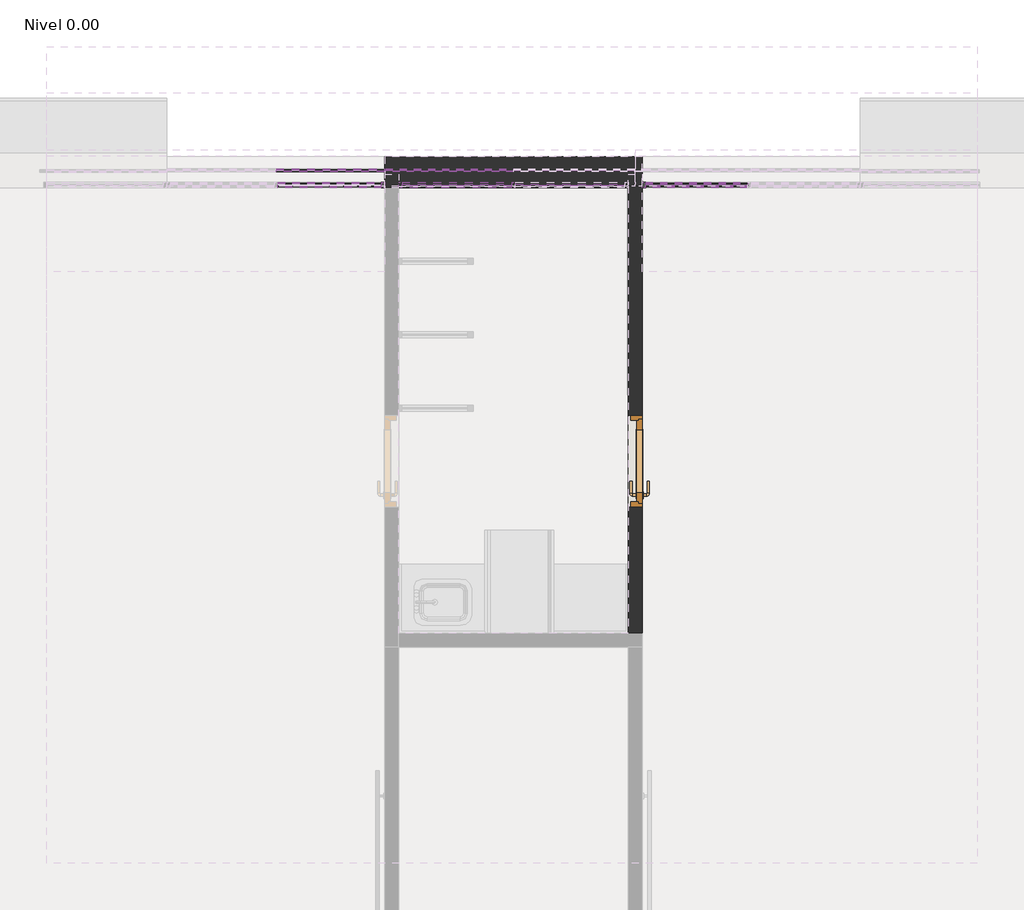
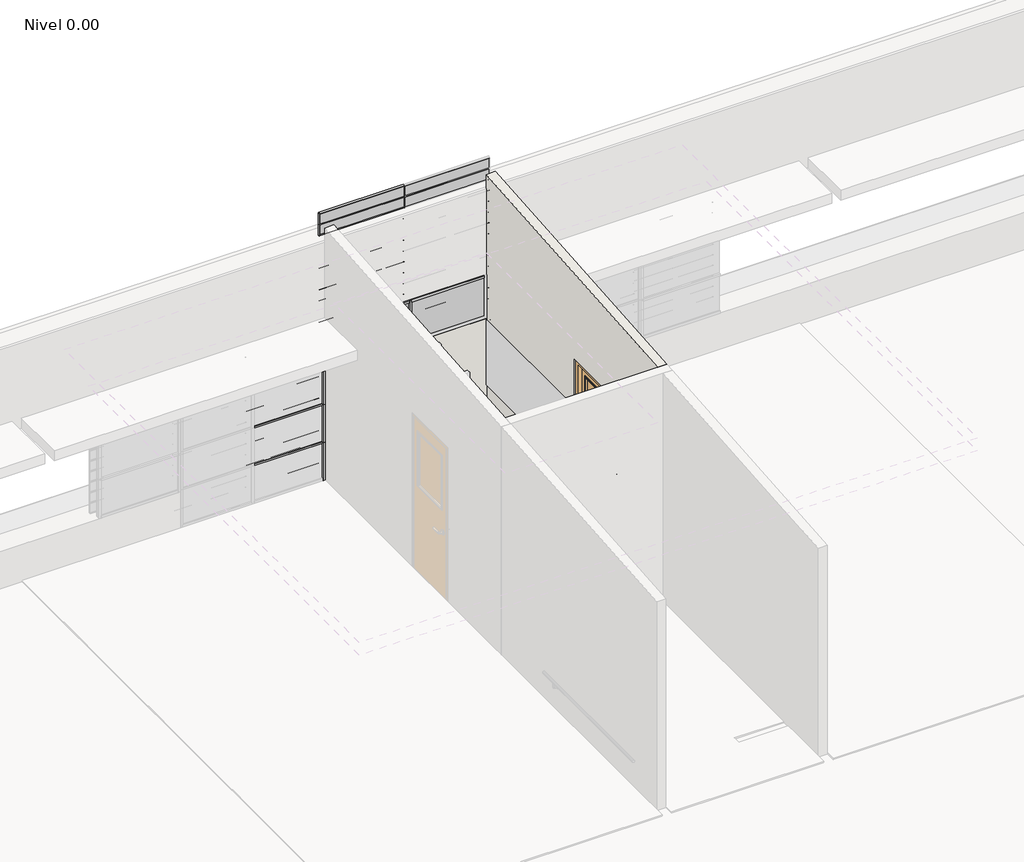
# One storey, part 20 of 27: 93 members, 34 plates, 2 walls, 1 door.
"""IFC4 building model written with IfcOpenShell, lengths in millimetres."""

from ifc_helpers import new_model, si_unit, origin, place, context, project, spatial, faceted_brep, transform, mapped, element, save
from components import puerta_c_01_c01_800x2100mm_3cbcec37, circular_mullion_1dead5a5, circular_mullion_e1cfff8a, l_corner_mullion_bdbcb013, l_corner_mullion_de296168, rectangular_mullion_4771c1cd, rectangular_mullion_435ed243, rectangular_mullion_62a8ddbd, rectangular_mullion_2cbd8fee, rectangular_mullion_4ef2b083, rectangular_mullion_b27f267a, rectangular_mullion_f4ea7fa0, rectangular_mullion_b22e6fb3, rectangular_mullion_4732226b, rectangular_mullion_bccfeea3, system_panel_c2da90dd, system_panel_3115ee70, system_panel_glazed_1415b8e8, system_panel_glazed_e2e8d64f, system_panel_glazed_11453ee4

model = new_model("IFC4")

# Units and contexts
model_context = context("Model", 3, world=origin())
ifc_project = project(units=[si_unit("LENGTHUNIT", "METRE", prefix="MILLI")], contexts=[model_context])

# Site, building, storey
site = spatial("IfcSite", under=ifc_project)
building = spatial("IfcBuilding", under=site)
storey = spatial("IfcBuildingStorey", under=building, Name="Nivel 0.00", Elevation=0.0)

# Door
placement = place(None, origin())
puerta_c_01_c01_800x2100mm_shape = puerta_c_01_c01_800x2100mm_3cbcec37(model_context)
element("IfcDoor", 1, ObjectType="PUERTA_C-01 : C01_800X2100mm", at=placement, inside=storey, context=model_context, shape_type="MappedRepresentation", body=[
    mapped(puerta_c_01_c01_800x2100mm_shape, transform((5408.1435187, 4429.3952347, 0.0), x_axis=(0.0, 1.0, 0.0), y_axis=(-1.0, 0.0, 0.0), z_axis=(0.0, 0.0, 1.0))),
])

# Members
circular_mullion_shape = circular_mullion_1dead5a5(model_context)
element("IfcMember", 2, ObjectType="Circular Mullion : ARQ_HERR_16mm", at=placement, inside=storey, context=model_context, shape_type="MappedRepresentation", body=[
    mapped(circular_mullion_shape, transform((4351.5775043, 6959.43912, 1650.0), x_axis=(0.0, 0.0, 1.0), y_axis=(0.0, -1.0, 0.0), z_axis=(1.0, 0.0, 0.0))),
])
element("IfcMember", 3, ObjectType="Circular Mullion : ARQ_HERR_16mm", at=placement, inside=storey, context=model_context, shape_type="MappedRepresentation", body=[
    mapped(circular_mullion_shape, transform((4351.5775043, 6959.43912, 1800.0), x_axis=(0.0, 0.0, 1.0), y_axis=(0.0, -1.0, 0.0), z_axis=(1.0, 0.0, 0.0))),
])
element("IfcMember", 4, ObjectType="Circular Mullion : ARQ_HERR_16mm", at=placement, inside=storey, context=model_context, shape_type="MappedRepresentation", body=[
    mapped(circular_mullion_shape, transform((4351.5775043, 6959.43912, 1950.0), x_axis=(0.0, 0.0, 1.0), y_axis=(0.0, -1.0, 0.0), z_axis=(1.0, 0.0, 0.0))),
])
element("IfcMember", 5, ObjectType="Circular Mullion : ARQ_HERR_16mm", at=placement, inside=storey, context=model_context, shape_type="MappedRepresentation", body=[
    mapped(circular_mullion_shape, transform((4351.5775043, 6959.43912, 2100.0), x_axis=(0.0, 0.0, 1.0), y_axis=(0.0, -1.0, 0.0), z_axis=(1.0, 0.0, 0.0))),
])
element("IfcMember", 6, ObjectType="Circular Mullion : ARQ_HERR_16mm", at=placement, inside=storey, context=model_context, shape_type="MappedRepresentation", body=[
    mapped(circular_mullion_shape, transform((4351.5775043, 6959.43912, 2250.0), x_axis=(0.0, 0.0, 1.0), y_axis=(0.0, -1.0, 0.0), z_axis=(1.0, 0.0, 0.0))),
])
element("IfcMember", 7, ObjectType="Circular Mullion : ARQ_HERR_16mm", at=placement, inside=storey, context=model_context, shape_type="MappedRepresentation", body=[
    mapped(circular_mullion_shape, transform((4351.5775043, 6959.43912, 2400.0), x_axis=(0.0, 0.0, 1.0), y_axis=(0.0, -1.0, 0.0), z_axis=(1.0, 0.0, 0.0))),
])
element("IfcMember", 8, ObjectType="Circular Mullion : ARQ_HERR_16mm", at=placement, inside=storey, context=model_context, shape_type="MappedRepresentation", body=[
    mapped(circular_mullion_shape, transform((4351.5775043, 6959.43912, 2550.0), x_axis=(0.0, 0.0, 1.0), y_axis=(0.0, -1.0, 0.0), z_axis=(1.0, 0.0, 0.0))),
])
element("IfcMember", 9, ObjectType="Circular Mullion : ARQ_HERR_16mm", at=placement, inside=storey, context=model_context, shape_type="MappedRepresentation", body=[
    mapped(circular_mullion_shape, transform((4351.5775043, 6959.43912, 2700.0), x_axis=(0.0, 0.0, 1.0), y_axis=(0.0, -1.0, 0.0), z_axis=(1.0, 0.0, 0.0))),
])
element("IfcMember", 10, ObjectType="Circular Mullion : ARQ_HERR_16mm", at=placement, inside=storey, context=model_context, shape_type="MappedRepresentation", body=[
    mapped(circular_mullion_shape, transform((4351.5775043, 6959.43912, 2850.0), x_axis=(0.0, 0.0, 1.0), y_axis=(0.0, -1.0, 0.0), z_axis=(1.0, 0.0, 0.0))),
])
element("IfcMember", 11, ObjectType="Circular Mullion : ARQ_HERR_16mm", at=placement, inside=storey, context=model_context, shape_type="MappedRepresentation", body=[
    mapped(circular_mullion_shape, transform((4351.5775043, 6959.43912, 3000.0), x_axis=(0.0, 0.0, 1.0), y_axis=(0.0, -1.0, 0.0), z_axis=(1.0, 0.0, 0.0))),
])
element("IfcMember", 12, ObjectType="Circular Mullion : ARQ_HERR_16mm", at=placement, inside=storey, context=model_context, shape_type="MappedRepresentation", body=[
    mapped(circular_mullion_shape, transform((4351.5775043, 6959.43912, 3150.0), x_axis=(0.0, 0.0, 1.0), y_axis=(0.0, -1.0, 0.0), z_axis=(1.0, 0.0, 0.0))),
])
element("IfcMember", 13, ObjectType="Circular Mullion : ARQ_HERR_16mm", at=placement, inside=storey, context=model_context, shape_type="MappedRepresentation", body=[
    mapped(circular_mullion_shape, transform((4351.5775043, 6959.43912, 3300.0), x_axis=(0.0, 0.0, 1.0), y_axis=(0.0, -1.0, 0.0), z_axis=(1.0, 0.0, 0.0))),
])
element("IfcMember", 14, ObjectType="Circular Mullion : ARQ_HERR_16mm", at=placement, inside=storey, context=model_context, shape_type="MappedRepresentation", body=[
    mapped(circular_mullion_shape, transform((4351.5775043, 6959.43912, 3450.0), x_axis=(0.0, 0.0, 1.0), y_axis=(0.0, -1.0, 0.0), z_axis=(1.0, 0.0, 0.0))),
])
circular_mullion_2_shape = circular_mullion_e1cfff8a(model_context)
element("IfcMember", 15, ObjectType="Circular Mullion : ARQ_HERR_16mm", at=placement, inside=storey, context=model_context, shape_type="MappedRepresentation", body=[
    mapped(circular_mullion_2_shape, transform((3228.6614898, 6959.43912, 150.0), x_axis=(0.0, 0.0, 1.0), y_axis=(0.0, -1.0, 0.0), z_axis=(1.0, 0.0, 0.0))),
])
element("IfcMember", 16, ObjectType="Circular Mullion : ARQ_HERR_16mm", at=placement, inside=storey, context=model_context, shape_type="MappedRepresentation", body=[
    mapped(circular_mullion_2_shape, transform((3228.6614898, 6959.43912, 300.0), x_axis=(0.0, 0.0, 1.0), y_axis=(0.0, -1.0, 0.0), z_axis=(1.0, 0.0, 0.0))),
])
element("IfcMember", 17, ObjectType="Circular Mullion : ARQ_HERR_16mm", at=placement, inside=storey, context=model_context, shape_type="MappedRepresentation", body=[
    mapped(circular_mullion_2_shape, transform((3228.6614898, 6959.43912, 450.0), x_axis=(0.0, 0.0, 1.0), y_axis=(0.0, -1.0, 0.0), z_axis=(1.0, 0.0, 0.0))),
])
element("IfcMember", 18, ObjectType="Circular Mullion : ARQ_HERR_16mm", at=placement, inside=storey, context=model_context, shape_type="MappedRepresentation", body=[
    mapped(circular_mullion_2_shape, transform((3228.6614898, 6959.43912, 600.0), x_axis=(0.0, 0.0, 1.0), y_axis=(0.0, -1.0, 0.0), z_axis=(1.0, 0.0, 0.0))),
])
element("IfcMember", 19, ObjectType="Circular Mullion : ARQ_HERR_16mm", at=placement, inside=storey, context=model_context, shape_type="MappedRepresentation", body=[
    mapped(circular_mullion_2_shape, transform((3228.6614898, 6959.43912, 750.0), x_axis=(0.0, 0.0, 1.0), y_axis=(0.0, -1.0, 0.0), z_axis=(1.0, 0.0, 0.0))),
])
element("IfcMember", 20, ObjectType="Circular Mullion : ARQ_HERR_16mm", at=placement, inside=storey, context=model_context, shape_type="MappedRepresentation", body=[
    mapped(circular_mullion_2_shape, transform((3228.6614898, 6959.43912, 900.0), x_axis=(0.0, 0.0, 1.0), y_axis=(0.0, -1.0, 0.0), z_axis=(1.0, 0.0, 0.0))),
])
element("IfcMember", 21, ObjectType="Circular Mullion : ARQ_HERR_16mm", at=placement, inside=storey, context=model_context, shape_type="MappedRepresentation", body=[
    mapped(circular_mullion_2_shape, transform((3228.6614898, 6959.43912, 1050.0), x_axis=(0.0, 0.0, 1.0), y_axis=(0.0, -1.0, 0.0), z_axis=(1.0, 0.0, 0.0))),
])
element("IfcMember", 22, ObjectType="Circular Mullion : ARQ_HERR_16mm", at=placement, inside=storey, context=model_context, shape_type="MappedRepresentation", body=[
    mapped(circular_mullion_2_shape, transform((3228.6614898, 6959.43912, 1200.0), x_axis=(0.0, 0.0, 1.0), y_axis=(0.0, -1.0, 0.0), z_axis=(1.0, 0.0, 0.0))),
])
element("IfcMember", 23, ObjectType="Circular Mullion : ARQ_HERR_16mm", at=placement, inside=storey, context=model_context, shape_type="MappedRepresentation", body=[
    mapped(circular_mullion_2_shape, transform((3228.6614898, 6959.43912, 1350.0), x_axis=(0.0, 0.0, 1.0), y_axis=(0.0, -1.0, 0.0), z_axis=(1.0, 0.0, 0.0))),
])
element("IfcMember", 24, ObjectType="Circular Mullion : ARQ_HERR_16mm", at=placement, inside=storey, context=model_context, shape_type="MappedRepresentation", body=[
    mapped(circular_mullion_2_shape, transform((3228.6614898, 6959.43912, 1500.0), x_axis=(0.0, 0.0, 1.0), y_axis=(0.0, -1.0, 0.0), z_axis=(1.0, 0.0, 0.0))),
])
element("IfcMember", 25, ObjectType="Circular Mullion : ARQ_HERR_16mm", at=placement, inside=storey, context=model_context, shape_type="MappedRepresentation", body=[
    mapped(circular_mullion_2_shape, transform((3228.6614898, 6959.43912, 1650.0), x_axis=(0.0, 0.0, 1.0), y_axis=(0.0, -1.0, 0.0), z_axis=(1.0, 0.0, 0.0))),
])
element("IfcMember", 26, ObjectType="Circular Mullion : ARQ_HERR_16mm", at=placement, inside=storey, context=model_context, shape_type="MappedRepresentation", body=[
    mapped(circular_mullion_2_shape, transform((3228.6614898, 6959.43912, 1800.0), x_axis=(0.0, 0.0, 1.0), y_axis=(0.0, -1.0, 0.0), z_axis=(1.0, 0.0, 0.0))),
])
element("IfcMember", 27, ObjectType="Circular Mullion : ARQ_HERR_16mm", at=placement, inside=storey, context=model_context, shape_type="MappedRepresentation", body=[
    mapped(circular_mullion_2_shape, transform((3228.6614898, 6959.43912, 1950.0), x_axis=(0.0, 0.0, 1.0), y_axis=(0.0, -1.0, 0.0), z_axis=(1.0, 0.0, 0.0))),
])
l_corner_mullion_shape = l_corner_mullion_bdbcb013(model_context)
element("IfcMember", 28, ObjectType="L Corner Mullion : ARQ_HERR_15X6mm", at=placement, inside=storey, context=model_context, shape_type="MappedRepresentation", body=[
    mapped(l_corner_mullion_shape, transform((4351.5775043, 6959.43912, 3600.0), x_axis=(0.0, 0.0, 1.0), y_axis=(0.0, -1.0, 0.0), z_axis=(1.0, 0.0, 0.0))),
])
element("IfcMember", 29, ObjectType="L Corner Mullion : ARQ_HERR_15X6mm", at=placement, inside=storey, context=model_context, shape_type="MappedRepresentation", body=[
    mapped(l_corner_mullion_shape, transform((3240.6614898, 6959.43912, 1500.0), x_axis=(0.0, 0.0, -1.0), y_axis=(0.0, -1.0, 0.0), z_axis=(-1.0, 0.0, 0.0))),
])
element("IfcMember", 30, ObjectType="L Corner Mullion : ARQ_HERR_15X6mm", at=placement, inside=storey, context=model_context, shape_type="MappedRepresentation", body=[
    mapped(l_corner_mullion_shape, transform((4357.5775043, 6959.43912, 1500.0), x_axis=(0.0, 0.0, -1.0), y_axis=(0.0, -1.0, 0.0), z_axis=(-1.0, 0.0, 0.0))),
])
l_corner_mullion_2_shape = l_corner_mullion_de296168(model_context)
element("IfcMember", 31, ObjectType="L Corner Mullion : ARQ_HERR_15X6mm", at=placement, inside=storey, context=model_context, shape_type="MappedRepresentation", body=[
    mapped(l_corner_mullion_2_shape, transform((3228.6614898, 6959.43912, 2100.0), x_axis=(0.0, 0.0, 1.0), y_axis=(0.0, -1.0, 0.0), z_axis=(1.0, 0.0, 0.0))),
])
rectangular_mullion_shape = rectangular_mullion_4771c1cd(model_context)
element("IfcMember", 32, ObjectType="Rectangular Mullion : ARQ_TV_MULL_50x30mm", at=placement, inside=storey, context=model_context, shape_type="MappedRepresentation", body=[
    mapped(rectangular_mullion_shape, transform((5504.4935187, 6834.4460983, 2100.0), x_axis=(0.0, 0.0, 1.0), y_axis=(0.0, 1.0, 0.0), z_axis=(-1.0, 0.0, 0.0))),
])
rectangular_mullion_2_shape = rectangular_mullion_435ed243(model_context)
element("IfcMember", 33, ObjectType="Rectangular Mullion : ARQ_TV_MULL_30x20mm", at=placement, inside=storey, context=model_context, shape_type="MappedRepresentation", body=[
    mapped(rectangular_mullion_2_shape, transform((5504.4935187, 6834.4460983, 525.0), x_axis=(0.0, 0.0, 1.0), y_axis=(0.0, 1.0, 0.0), z_axis=(-1.0, 0.0, 0.0))),
])
element("IfcMember", 34, ObjectType="Rectangular Mullion : ARQ_TV_MULL_30x20mm", at=placement, inside=storey, context=model_context, shape_type="MappedRepresentation", body=[
    mapped(rectangular_mullion_2_shape, transform((5504.4935187, 6834.4460983, 1050.0), x_axis=(0.0, 0.0, 1.0), y_axis=(0.0, 1.0, 0.0), z_axis=(-1.0, 0.0, 0.0))),
])
element("IfcMember", 35, ObjectType="Rectangular Mullion : ARQ_TV_MULL_30x20mm", at=placement, inside=storey, context=model_context, shape_type="MappedRepresentation", body=[
    mapped(rectangular_mullion_2_shape, transform((5504.4935187, 6834.4460983, 1575.0), x_axis=(0.0, 0.0, 1.0), y_axis=(0.0, 1.0, 0.0), z_axis=(-1.0, 0.0, 0.0))),
])
rectangular_mullion_3_shape = rectangular_mullion_62a8ddbd(model_context)
element("IfcMember", 36, ObjectType="Rectangular Mullion : ARQ_TV_MULL_50x30mm", at=placement, inside=storey, context=model_context, shape_type="MappedRepresentation", body=[
    mapped(rectangular_mullion_3_shape, transform((5474.4935187, 6834.4460983, 0.0), x_axis=(-1.0, 0.0, 0.0), y_axis=(0.0, 1.0, 0.0), z_axis=(0.0, 0.0, -1.0))),
])
element("IfcMember", 37, ObjectType="Rectangular Mullion : ARQ_TV_MULL_50x30mm", at=placement, inside=storey, context=model_context, shape_type="MappedRepresentation", body=[
    mapped(rectangular_mullion_3_shape, transform((3234.6614898, 6834.4460974, 0.0), x_axis=(1.0, 0.0, 0.0), y_axis=(0.0, -1.0, 0.0), z_axis=(0.0, 0.0, -1.0))),
])
element("IfcMember", 38, ObjectType="Rectangular Mullion : ARQ_TV_MULL_50x30mm", at=placement, inside=storey, context=model_context, shape_type="MappedRepresentation", body=[
    mapped(rectangular_mullion_3_shape, transform((5474.4935187, 6834.4460983, 525.0), x_axis=(-1.0, 0.0, 0.0), y_axis=(0.0, 1.0, 0.0), z_axis=(0.0, 0.0, -1.0))),
])
element("IfcMember", 39, ObjectType="Rectangular Mullion : ARQ_TV_MULL_50x30mm", at=placement, inside=storey, context=model_context, shape_type="MappedRepresentation", body=[
    mapped(rectangular_mullion_3_shape, transform((5474.4935187, 6834.4460983, 1050.0), x_axis=(-1.0, 0.0, 0.0), y_axis=(0.0, 1.0, 0.0), z_axis=(0.0, 0.0, -1.0))),
])
element("IfcMember", 40, ObjectType="Rectangular Mullion : ARQ_TV_MULL_50x30mm", at=placement, inside=storey, context=model_context, shape_type="MappedRepresentation", body=[
    mapped(rectangular_mullion_3_shape, transform((3234.6614898, 6834.4460974, 525.0), x_axis=(1.0, 0.0, 0.0), y_axis=(0.0, -1.0, 0.0), z_axis=(0.0, 0.0, -1.0))),
])
element("IfcMember", 41, ObjectType="Rectangular Mullion : ARQ_TV_MULL_50x30mm", at=placement, inside=storey, context=model_context, shape_type="MappedRepresentation", body=[
    mapped(rectangular_mullion_3_shape, transform((3234.6614898, 6834.4460974, 1050.0), x_axis=(1.0, 0.0, 0.0), y_axis=(0.0, -1.0, 0.0), z_axis=(0.0, 0.0, -1.0))),
])
element("IfcMember", 42, ObjectType="Rectangular Mullion : ARQ_TV_MULL_50x30mm", at=placement, inside=storey, context=model_context, shape_type="MappedRepresentation", body=[
    mapped(rectangular_mullion_3_shape, transform((5474.4935187, 6834.4460983, 1575.0), x_axis=(-1.0, 0.0, 0.0), y_axis=(0.0, 1.0, 0.0), z_axis=(0.0, 0.0, -1.0))),
])
element("IfcMember", 43, ObjectType="Rectangular Mullion : ARQ_TV_MULL_50x30mm", at=placement, inside=storey, context=model_context, shape_type="MappedRepresentation", body=[
    mapped(rectangular_mullion_3_shape, transform((3234.6614898, 6834.4460974, 1575.0), x_axis=(1.0, 0.0, 0.0), y_axis=(0.0, -1.0, 0.0), z_axis=(0.0, 0.0, -1.0))),
])
rectangular_mullion_4_shape = rectangular_mullion_2cbd8fee(model_context)
element("IfcMember", 44, ObjectType="Rectangular Mullion : ARQ_TV_MULL_50x30mm", at=placement, inside=storey, context=model_context, shape_type="MappedRepresentation", body=[
    mapped(rectangular_mullion_4_shape, transform((3204.6614898, 6834.4460974, 2100.0), x_axis=(0.0, 0.0, 1.0), y_axis=(0.0, -1.0, 0.0), z_axis=(1.0, 0.0, 0.0))),
])
rectangular_mullion_5_shape = rectangular_mullion_4ef2b083(model_context)
element("IfcMember", 45, ObjectType="Rectangular Mullion : ARQ_TV_MULL_30x20mm", at=placement, inside=storey, context=model_context, shape_type="MappedRepresentation", body=[
    mapped(rectangular_mullion_5_shape, transform((3204.6614898, 6834.4460974, 525.0), x_axis=(0.0, 0.0, 1.0), y_axis=(0.0, -1.0, 0.0), z_axis=(1.0, 0.0, 0.0))),
])
element("IfcMember", 46, ObjectType="Rectangular Mullion : ARQ_TV_MULL_30x20mm", at=placement, inside=storey, context=model_context, shape_type="MappedRepresentation", body=[
    mapped(rectangular_mullion_5_shape, transform((3204.6614898, 6834.4460974, 1050.0), x_axis=(0.0, 0.0, 1.0), y_axis=(0.0, -1.0, 0.0), z_axis=(1.0, 0.0, 0.0))),
])
element("IfcMember", 47, ObjectType="Rectangular Mullion : ARQ_TV_MULL_30x20mm", at=placement, inside=storey, context=model_context, shape_type="MappedRepresentation", body=[
    mapped(rectangular_mullion_5_shape, transform((3204.6614898, 6834.4460974, 1575.0), x_axis=(0.0, 0.0, 1.0), y_axis=(0.0, -1.0, 0.0), z_axis=(1.0, 0.0, 0.0))),
])
rectangular_mullion_6_shape = rectangular_mullion_b27f267a(model_context)
element("IfcMember", 48, ObjectType="Rectangular Mullion : ARQ_TV_MULL_50x30mm", at=placement, inside=storey, context=model_context, shape_type="MappedRepresentation", body=[
    mapped(rectangular_mullion_6_shape, transform((4354.4372964, 6834.4460983, 1500.0), x_axis=(-1.0, 0.0, 0.0), y_axis=(0.0, 1.0, 0.0), z_axis=(0.0, 0.0, -1.0))),
])
rectangular_mullion_7_shape = rectangular_mullion_f4ea7fa0(model_context)
element("IfcMember", 49, ObjectType="Rectangular Mullion : ARQ_TV_MULL_50x30mm", at=placement, inside=storey, context=model_context, shape_type="MappedRepresentation", body=[
    mapped(rectangular_mullion_7_shape, transform((3354.3810741, 6834.4460983, 1500.0), x_axis=(-1.0, 0.0, 0.0), y_axis=(0.0, 1.0, 0.0), z_axis=(0.0, 0.0, -1.0))),
])
rectangular_mullion_8_shape = rectangular_mullion_b22e6fb3(model_context)
element("IfcMember", 50, ObjectType="Rectangular Mullion : ARQ_TV_MULL_50x30mm", at=placement, inside=storey, context=model_context, shape_type="MappedRepresentation", body=[
    mapped(rectangular_mullion_8_shape, transform((3384.3810741, 6834.4460983, 2100.0), x_axis=(0.0, 0.0, 1.0), y_axis=(0.0, 1.0, 0.0), z_axis=(-1.0, 0.0, 0.0))),
])
element("IfcMember", 51, ObjectType="Rectangular Mullion : ARQ_TV_MULL_50x30mm", at=placement, inside=storey, context=model_context, shape_type="MappedRepresentation", body=[
    mapped(rectangular_mullion_8_shape, transform((4369.4372964, 6834.4460983, 2100.0), x_axis=(0.0, 0.0, 1.0), y_axis=(0.0, 1.0, 0.0), z_axis=(-1.0, 0.0, 0.0))),
])
element("IfcMember", 52, ObjectType="Rectangular Mullion : ARQ_TV_MULL_50x30mm", at=placement, inside=storey, context=model_context, shape_type="MappedRepresentation", body=[
    mapped(rectangular_mullion_8_shape, transform((4339.4372964, 6834.4460983, 1500.0), x_axis=(0.0, 0.0, -1.0), y_axis=(0.0, 1.0, 0.0), z_axis=(1.0, 0.0, 0.0))),
])
rectangular_mullion_9_shape = rectangular_mullion_4732226b(model_context)
element("IfcMember", 53, ObjectType="Rectangular Mullion : ARQ_HERR_15X6mm", at=placement, inside=storey, context=model_context, shape_type="MappedRepresentation", body=[
    mapped(rectangular_mullion_9_shape, transform((4354.5775043, 6959.43912, 1500.0), x_axis=(1.0, 0.0, 0.0), y_axis=(0.0, -1.0, 0.0), z_axis=(0.0, 0.0, -1.0))),
])
element("IfcMember", 54, ObjectType="Rectangular Mullion : ARQ_HERR_15X6mm", at=placement, inside=storey, context=model_context, shape_type="MappedRepresentation", body=[
    mapped(rectangular_mullion_9_shape, transform((4354.5775043, 6959.43912, 1650.0), x_axis=(1.0, 0.0, 0.0), y_axis=(0.0, -1.0, 0.0), z_axis=(0.0, 0.0, -1.0))),
])
element("IfcMember", 55, ObjectType="Rectangular Mullion : ARQ_HERR_15X6mm", at=placement, inside=storey, context=model_context, shape_type="MappedRepresentation", body=[
    mapped(rectangular_mullion_9_shape, transform((4354.5775043, 6959.43912, 1800.0), x_axis=(1.0, 0.0, 0.0), y_axis=(0.0, -1.0, 0.0), z_axis=(0.0, 0.0, -1.0))),
])
element("IfcMember", 56, ObjectType="Rectangular Mullion : ARQ_HERR_15X6mm", at=placement, inside=storey, context=model_context, shape_type="MappedRepresentation", body=[
    mapped(rectangular_mullion_9_shape, transform((4354.5775043, 6959.43912, 1950.0), x_axis=(1.0, 0.0, 0.0), y_axis=(0.0, -1.0, 0.0), z_axis=(0.0, 0.0, -1.0))),
])
element("IfcMember", 57, ObjectType="Rectangular Mullion : ARQ_HERR_15X6mm", at=placement, inside=storey, context=model_context, shape_type="MappedRepresentation", body=[
    mapped(rectangular_mullion_9_shape, transform((4354.5775043, 6959.43912, 2100.0), x_axis=(1.0, 0.0, 0.0), y_axis=(0.0, -1.0, 0.0), z_axis=(0.0, 0.0, -1.0))),
])
element("IfcMember", 58, ObjectType="Rectangular Mullion : ARQ_HERR_15X6mm", at=placement, inside=storey, context=model_context, shape_type="MappedRepresentation", body=[
    mapped(rectangular_mullion_9_shape, transform((4354.5775043, 6959.43912, 2250.0), x_axis=(1.0, 0.0, 0.0), y_axis=(0.0, -1.0, 0.0), z_axis=(0.0, 0.0, -1.0))),
])
element("IfcMember", 59, ObjectType="Rectangular Mullion : ARQ_HERR_15X6mm", at=placement, inside=storey, context=model_context, shape_type="MappedRepresentation", body=[
    mapped(rectangular_mullion_9_shape, transform((4354.5775043, 6959.43912, 2400.0), x_axis=(1.0, 0.0, 0.0), y_axis=(0.0, -1.0, 0.0), z_axis=(0.0, 0.0, -1.0))),
])
element("IfcMember", 60, ObjectType="Rectangular Mullion : ARQ_HERR_15X6mm", at=placement, inside=storey, context=model_context, shape_type="MappedRepresentation", body=[
    mapped(rectangular_mullion_9_shape, transform((4354.5775043, 6959.43912, 2550.0), x_axis=(1.0, 0.0, 0.0), y_axis=(0.0, -1.0, 0.0), z_axis=(0.0, 0.0, -1.0))),
])
element("IfcMember", 61, ObjectType="Rectangular Mullion : ARQ_HERR_15X6mm", at=placement, inside=storey, context=model_context, shape_type="MappedRepresentation", body=[
    mapped(rectangular_mullion_9_shape, transform((4354.5775043, 6959.43912, 2700.0), x_axis=(1.0, 0.0, 0.0), y_axis=(0.0, -1.0, 0.0), z_axis=(0.0, 0.0, -1.0))),
])
element("IfcMember", 62, ObjectType="Rectangular Mullion : ARQ_HERR_15X6mm", at=placement, inside=storey, context=model_context, shape_type="MappedRepresentation", body=[
    mapped(rectangular_mullion_9_shape, transform((4354.5775043, 6959.43912, 2850.0), x_axis=(1.0, 0.0, 0.0), y_axis=(0.0, -1.0, 0.0), z_axis=(0.0, 0.0, -1.0))),
])
element("IfcMember", 63, ObjectType="Rectangular Mullion : ARQ_HERR_15X6mm", at=placement, inside=storey, context=model_context, shape_type="MappedRepresentation", body=[
    mapped(rectangular_mullion_9_shape, transform((4354.5775043, 6959.43912, 3000.0), x_axis=(1.0, 0.0, 0.0), y_axis=(0.0, -1.0, 0.0), z_axis=(0.0, 0.0, -1.0))),
])
element("IfcMember", 64, ObjectType="Rectangular Mullion : ARQ_HERR_15X6mm", at=placement, inside=storey, context=model_context, shape_type="MappedRepresentation", body=[
    mapped(rectangular_mullion_9_shape, transform((4354.5775043, 6959.43912, 3150.0), x_axis=(1.0, 0.0, 0.0), y_axis=(0.0, -1.0, 0.0), z_axis=(0.0, 0.0, -1.0))),
])
element("IfcMember", 65, ObjectType="Rectangular Mullion : ARQ_HERR_15X6mm", at=placement, inside=storey, context=model_context, shape_type="MappedRepresentation", body=[
    mapped(rectangular_mullion_9_shape, transform((4354.5775043, 6959.43912, 3300.0), x_axis=(1.0, 0.0, 0.0), y_axis=(0.0, -1.0, 0.0), z_axis=(0.0, 0.0, -1.0))),
])
rectangular_mullion_10_shape = rectangular_mullion_bccfeea3(model_context)
element("IfcMember", 66, ObjectType="Rectangular Mullion : ARQ_HERR_15X6mm", at=placement, inside=storey, context=model_context, shape_type="MappedRepresentation", body=[
    mapped(rectangular_mullion_10_shape, transform((3234.6614898, 6959.43912, 0.0), x_axis=(1.0, 0.0, 0.0), y_axis=(0.0, -1.0, 0.0), z_axis=(0.0, 0.0, -1.0))),
])
element("IfcMember", 67, ObjectType="Rectangular Mullion : ARQ_HERR_15X6mm", at=placement, inside=storey, context=model_context, shape_type="MappedRepresentation", body=[
    mapped(rectangular_mullion_10_shape, transform((3234.6614898, 6959.43912, 150.0), x_axis=(1.0, 0.0, 0.0), y_axis=(0.0, -1.0, 0.0), z_axis=(0.0, 0.0, -1.0))),
])
element("IfcMember", 68, ObjectType="Rectangular Mullion : ARQ_HERR_15X6mm", at=placement, inside=storey, context=model_context, shape_type="MappedRepresentation", body=[
    mapped(rectangular_mullion_10_shape, transform((3234.6614898, 6959.43912, 300.0), x_axis=(1.0, 0.0, 0.0), y_axis=(0.0, -1.0, 0.0), z_axis=(0.0, 0.0, -1.0))),
])
element("IfcMember", 69, ObjectType="Rectangular Mullion : ARQ_HERR_15X6mm", at=placement, inside=storey, context=model_context, shape_type="MappedRepresentation", body=[
    mapped(rectangular_mullion_10_shape, transform((3234.6614898, 6959.43912, 450.0), x_axis=(1.0, 0.0, 0.0), y_axis=(0.0, -1.0, 0.0), z_axis=(0.0, 0.0, -1.0))),
])
element("IfcMember", 70, ObjectType="Rectangular Mullion : ARQ_HERR_15X6mm", at=placement, inside=storey, context=model_context, shape_type="MappedRepresentation", body=[
    mapped(rectangular_mullion_10_shape, transform((3234.6614898, 6959.43912, 600.0), x_axis=(1.0, 0.0, 0.0), y_axis=(0.0, -1.0, 0.0), z_axis=(0.0, 0.0, -1.0))),
])
element("IfcMember", 71, ObjectType="Rectangular Mullion : ARQ_HERR_15X6mm", at=placement, inside=storey, context=model_context, shape_type="MappedRepresentation", body=[
    mapped(rectangular_mullion_10_shape, transform((3234.6614898, 6959.43912, 750.0), x_axis=(1.0, 0.0, 0.0), y_axis=(0.0, -1.0, 0.0), z_axis=(0.0, 0.0, -1.0))),
])
element("IfcMember", 72, ObjectType="Rectangular Mullion : ARQ_HERR_15X6mm", at=placement, inside=storey, context=model_context, shape_type="MappedRepresentation", body=[
    mapped(rectangular_mullion_10_shape, transform((3234.6614898, 6959.43912, 900.0), x_axis=(1.0, 0.0, 0.0), y_axis=(0.0, -1.0, 0.0), z_axis=(0.0, 0.0, -1.0))),
])
element("IfcMember", 73, ObjectType="Rectangular Mullion : ARQ_HERR_15X6mm", at=placement, inside=storey, context=model_context, shape_type="MappedRepresentation", body=[
    mapped(rectangular_mullion_10_shape, transform((3234.6614898, 6959.43912, 1050.0), x_axis=(1.0, 0.0, 0.0), y_axis=(0.0, -1.0, 0.0), z_axis=(0.0, 0.0, -1.0))),
])
element("IfcMember", 74, ObjectType="Rectangular Mullion : ARQ_HERR_15X6mm", at=placement, inside=storey, context=model_context, shape_type="MappedRepresentation", body=[
    mapped(rectangular_mullion_10_shape, transform((3234.6614898, 6959.43912, 1200.0), x_axis=(1.0, 0.0, 0.0), y_axis=(0.0, -1.0, 0.0), z_axis=(0.0, 0.0, -1.0))),
])
element("IfcMember", 75, ObjectType="Rectangular Mullion : ARQ_HERR_15X6mm", at=placement, inside=storey, context=model_context, shape_type="MappedRepresentation", body=[
    mapped(rectangular_mullion_10_shape, transform((3234.6614898, 6959.43912, 1350.0), x_axis=(1.0, 0.0, 0.0), y_axis=(0.0, -1.0, 0.0), z_axis=(0.0, 0.0, -1.0))),
])
element("IfcMember", 76, ObjectType="Rectangular Mullion : ARQ_HERR_15X6mm", at=placement, inside=storey, context=model_context, shape_type="MappedRepresentation", body=[
    mapped(rectangular_mullion_10_shape, transform((3234.6614898, 6959.43912, 1500.0), x_axis=(1.0, 0.0, 0.0), y_axis=(0.0, -1.0, 0.0), z_axis=(0.0, 0.0, -1.0))),
])
element("IfcMember", 77, ObjectType="Rectangular Mullion : ARQ_HERR_15X6mm", at=placement, inside=storey, context=model_context, shape_type="MappedRepresentation", body=[
    mapped(rectangular_mullion_10_shape, transform((3234.6614898, 6959.43912, 1650.0), x_axis=(1.0, 0.0, 0.0), y_axis=(0.0, -1.0, 0.0), z_axis=(0.0, 0.0, -1.0))),
])
element("IfcMember", 78, ObjectType="Rectangular Mullion : ARQ_HERR_15X6mm", at=placement, inside=storey, context=model_context, shape_type="MappedRepresentation", body=[
    mapped(rectangular_mullion_10_shape, transform((3234.6614898, 6959.43912, 1800.0), x_axis=(1.0, 0.0, 0.0), y_axis=(0.0, -1.0, 0.0), z_axis=(0.0, 0.0, -1.0))),
])
element("IfcMember", 79, ObjectType="Rectangular Mullion : ARQ_HERR_15X6mm", at=placement, inside=storey, context=model_context, shape_type="MappedRepresentation", body=[
    mapped(rectangular_mullion_10_shape, transform((3234.6614898, 6959.43912, 1650.0), x_axis=(-1.0, 0.0, 0.0), y_axis=(0.0, -1.0, 0.0), z_axis=(0.0, 0.0, 1.0))),
])
element("IfcMember", 80, ObjectType="Rectangular Mullion : ARQ_HERR_15X6mm", at=placement, inside=storey, context=model_context, shape_type="MappedRepresentation", body=[
    mapped(rectangular_mullion_10_shape, transform((3234.6614898, 6959.43912, 1800.0), x_axis=(-1.0, 0.0, 0.0), y_axis=(0.0, -1.0, 0.0), z_axis=(0.0, 0.0, 1.0))),
])
element("IfcMember", 81, ObjectType="Rectangular Mullion : ARQ_HERR_15X6mm", at=placement, inside=storey, context=model_context, shape_type="MappedRepresentation", body=[
    mapped(rectangular_mullion_10_shape, transform((3234.6614898, 6959.43912, 1950.0), x_axis=(-1.0, 0.0, 0.0), y_axis=(0.0, -1.0, 0.0), z_axis=(0.0, 0.0, 1.0))),
])
element("IfcMember", 82, ObjectType="Rectangular Mullion : ARQ_HERR_15X6mm", at=placement, inside=storey, context=model_context, shape_type="MappedRepresentation", body=[
    mapped(rectangular_mullion_10_shape, transform((3234.6614898, 6959.43912, 2100.0), x_axis=(-1.0, 0.0, 0.0), y_axis=(0.0, -1.0, 0.0), z_axis=(0.0, 0.0, 1.0))),
])
element("IfcMember", 83, ObjectType="Rectangular Mullion : ARQ_HERR_15X6mm", at=placement, inside=storey, context=model_context, shape_type="MappedRepresentation", body=[
    mapped(rectangular_mullion_10_shape, transform((3234.6614898, 6959.43912, 2250.0), x_axis=(-1.0, 0.0, 0.0), y_axis=(0.0, -1.0, 0.0), z_axis=(0.0, 0.0, 1.0))),
])
element("IfcMember", 84, ObjectType="Rectangular Mullion : ARQ_HERR_15X6mm", at=placement, inside=storey, context=model_context, shape_type="MappedRepresentation", body=[
    mapped(rectangular_mullion_10_shape, transform((3234.6614898, 6959.43912, 2400.0), x_axis=(-1.0, 0.0, 0.0), y_axis=(0.0, -1.0, 0.0), z_axis=(0.0, 0.0, 1.0))),
])
element("IfcMember", 85, ObjectType="Rectangular Mullion : ARQ_HERR_15X6mm", at=placement, inside=storey, context=model_context, shape_type="MappedRepresentation", body=[
    mapped(rectangular_mullion_10_shape, transform((3234.6614898, 6959.43912, 2550.0), x_axis=(-1.0, 0.0, 0.0), y_axis=(0.0, -1.0, 0.0), z_axis=(0.0, 0.0, 1.0))),
])
element("IfcMember", 86, ObjectType="Rectangular Mullion : ARQ_HERR_15X6mm", at=placement, inside=storey, context=model_context, shape_type="MappedRepresentation", body=[
    mapped(rectangular_mullion_10_shape, transform((3234.6614898, 6959.43912, 2700.0), x_axis=(-1.0, 0.0, 0.0), y_axis=(0.0, -1.0, 0.0), z_axis=(0.0, 0.0, 1.0))),
])
element("IfcMember", 87, ObjectType="Rectangular Mullion : ARQ_HERR_15X6mm", at=placement, inside=storey, context=model_context, shape_type="MappedRepresentation", body=[
    mapped(rectangular_mullion_10_shape, transform((3234.6614898, 6959.43912, 2850.0), x_axis=(-1.0, 0.0, 0.0), y_axis=(0.0, -1.0, 0.0), z_axis=(0.0, 0.0, 1.0))),
])
element("IfcMember", 88, ObjectType="Rectangular Mullion : ARQ_HERR_15X6mm", at=placement, inside=storey, context=model_context, shape_type="MappedRepresentation", body=[
    mapped(rectangular_mullion_10_shape, transform((3234.6614898, 6959.43912, 3000.0), x_axis=(-1.0, 0.0, 0.0), y_axis=(0.0, -1.0, 0.0), z_axis=(0.0, 0.0, 1.0))),
])
element("IfcMember", 89, ObjectType="Rectangular Mullion : ARQ_HERR_15X6mm", at=placement, inside=storey, context=model_context, shape_type="MappedRepresentation", body=[
    mapped(rectangular_mullion_10_shape, transform((3234.6614898, 6959.43912, 3150.0), x_axis=(-1.0, 0.0, 0.0), y_axis=(0.0, -1.0, 0.0), z_axis=(0.0, 0.0, 1.0))),
])
element("IfcMember", 90, ObjectType="Rectangular Mullion : ARQ_HERR_15X6mm", at=placement, inside=storey, context=model_context, shape_type="MappedRepresentation", body=[
    mapped(rectangular_mullion_10_shape, transform((3234.6614898, 6959.43912, 3300.0), x_axis=(-1.0, 0.0, 0.0), y_axis=(0.0, -1.0, 0.0), z_axis=(0.0, 0.0, 1.0))),
])
element("IfcMember", 91, ObjectType="Rectangular Mullion : ARQ_HERR_15X6mm", at=placement, inside=storey, context=model_context, shape_type="MappedRepresentation", body=[
    mapped(rectangular_mullion_10_shape, transform((3234.6614898, 6959.43912, 3450.0), x_axis=(-1.0, 0.0, 0.0), y_axis=(0.0, -1.0, 0.0), z_axis=(0.0, 0.0, 1.0))),
])
element("IfcMember", 92, ObjectType="Rectangular Mullion : ARQ_HERR_15X6mm", at=placement, inside=storey, context=model_context, shape_type="MappedRepresentation", body=[
    mapped(rectangular_mullion_9_shape, transform((4354.5775043, 6959.43912, 3450.0), x_axis=(1.0, 0.0, 0.0), y_axis=(0.0, -1.0, 0.0), z_axis=(0.0, 0.0, -1.0))),
])
element("IfcMember", 93, ObjectType="Rectangular Mullion : ARQ_HERR_15X6mm", at=placement, inside=storey, context=model_context, shape_type="MappedRepresentation", body=[
    mapped(rectangular_mullion_10_shape, transform((3234.6614898, 6959.43912, 3600.0), x_axis=(-1.0, 0.0, 0.0), y_axis=(0.0, -1.0, 0.0), z_axis=(0.0, 0.0, 1.0))),
])
element("IfcMember", 94, ObjectType="Rectangular Mullion : ARQ_HERR_15X6mm", at=placement, inside=storey, context=model_context, shape_type="MappedRepresentation", body=[
    mapped(rectangular_mullion_10_shape, transform((3234.6614898, 6959.43912, 1950.0), x_axis=(1.0, 0.0, 0.0), y_axis=(0.0, -1.0, 0.0), z_axis=(0.0, 0.0, -1.0))),
])

# Plates
system_panel_shape = system_panel_c2da90dd(model_context)
element("IfcPlate", 95, ObjectType="System Panel : VACÍO", at=placement, inside=storey, context=model_context, shape_type="MappedRepresentation", body=[
    mapped(system_panel_shape, transform((3796.1194971, 6959.43912, 1506.0), x_axis=(1.0, 0.0, 0.0), y_axis=(0.0, 1.0, 0.0), z_axis=(0.0, 0.0, 1.0))),
])
element("IfcPlate", 96, ObjectType="System Panel : VACÍO", at=placement, inside=storey, context=model_context, shape_type="MappedRepresentation", body=[
    mapped(system_panel_shape, transform((4913.0355115, 6959.43912, 1506.0), x_axis=(1.0, 0.0, 0.0), y_axis=(0.0, 1.0, 0.0), z_axis=(0.0, 0.0, 1.0))),
])
element("IfcPlate", 97, ObjectType="System Panel : VACÍO", at=placement, inside=storey, context=model_context, shape_type="MappedRepresentation", body=[
    mapped(system_panel_shape, transform((3796.1194971, 6959.43912, 3458.0), x_axis=(1.0, 0.0, 0.0), y_axis=(0.0, 1.0, 0.0), z_axis=(0.0, 0.0, 1.0))),
])
element("IfcPlate", 98, ObjectType="System Panel : VACÍO", at=placement, inside=storey, context=model_context, shape_type="MappedRepresentation", body=[
    mapped(system_panel_shape, transform((4913.0355115, 6959.43912, 3458.0), x_axis=(1.0, 0.0, 0.0), y_axis=(0.0, 1.0, 0.0), z_axis=(0.0, 0.0, 1.0))),
])
system_panel_2_shape = system_panel_3115ee70(model_context)
element("IfcPlate", 99, ObjectType="System Panel : VACÍO", at=placement, inside=storey, context=model_context, shape_type="MappedRepresentation", body=[
    mapped(system_panel_2_shape, transform((3796.1194971, 6959.43912, 1658.0), x_axis=(1.0, 0.0, 0.0), y_axis=(0.0, 1.0, 0.0), z_axis=(0.0, 0.0, 1.0))),
])
element("IfcPlate", 100, ObjectType="System Panel : VACÍO", at=placement, inside=storey, context=model_context, shape_type="MappedRepresentation", body=[
    mapped(system_panel_2_shape, transform((4913.0355115, 6959.43912, 1658.0), x_axis=(1.0, 0.0, 0.0), y_axis=(0.0, 1.0, 0.0), z_axis=(0.0, 0.0, 1.0))),
])
element("IfcPlate", 101, ObjectType="System Panel : VACÍO", at=placement, inside=storey, context=model_context, shape_type="MappedRepresentation", body=[
    mapped(system_panel_2_shape, transform((3796.1194971, 6959.43912, 1808.0), x_axis=(1.0, 0.0, 0.0), y_axis=(0.0, 1.0, 0.0), z_axis=(0.0, 0.0, 1.0))),
])
element("IfcPlate", 102, ObjectType="System Panel : VACÍO", at=placement, inside=storey, context=model_context, shape_type="MappedRepresentation", body=[
    mapped(system_panel_2_shape, transform((4913.0355115, 6959.43912, 1808.0), x_axis=(1.0, 0.0, 0.0), y_axis=(0.0, 1.0, 0.0), z_axis=(0.0, 0.0, 1.0))),
])
element("IfcPlate", 103, ObjectType="System Panel : VACÍO", at=placement, inside=storey, context=model_context, shape_type="MappedRepresentation", body=[
    mapped(system_panel_2_shape, transform((3796.1194971, 6959.43912, 1958.0), x_axis=(1.0, 0.0, 0.0), y_axis=(0.0, 1.0, 0.0), z_axis=(0.0, 0.0, 1.0))),
])
element("IfcPlate", 104, ObjectType="System Panel : VACÍO", at=placement, inside=storey, context=model_context, shape_type="MappedRepresentation", body=[
    mapped(system_panel_2_shape, transform((4913.0355115, 6959.43912, 1958.0), x_axis=(1.0, 0.0, 0.0), y_axis=(0.0, 1.0, 0.0), z_axis=(0.0, 0.0, 1.0))),
])
element("IfcPlate", 105, ObjectType="System Panel : VACÍO", at=placement, inside=storey, context=model_context, shape_type="MappedRepresentation", body=[
    mapped(system_panel_2_shape, transform((3796.1194971, 6959.43912, 2108.0), x_axis=(1.0, 0.0, 0.0), y_axis=(0.0, 1.0, 0.0), z_axis=(0.0, 0.0, 1.0))),
])
element("IfcPlate", 106, ObjectType="System Panel : VACÍO", at=placement, inside=storey, context=model_context, shape_type="MappedRepresentation", body=[
    mapped(system_panel_2_shape, transform((4913.0355115, 6959.43912, 2108.0), x_axis=(1.0, 0.0, 0.0), y_axis=(0.0, 1.0, 0.0), z_axis=(0.0, 0.0, 1.0))),
])
element("IfcPlate", 107, ObjectType="System Panel : VACÍO", at=placement, inside=storey, context=model_context, shape_type="MappedRepresentation", body=[
    mapped(system_panel_2_shape, transform((3796.1194971, 6959.43912, 2258.0), x_axis=(1.0, 0.0, 0.0), y_axis=(0.0, 1.0, 0.0), z_axis=(0.0, 0.0, 1.0))),
])
element("IfcPlate", 108, ObjectType="System Panel : VACÍO", at=placement, inside=storey, context=model_context, shape_type="MappedRepresentation", body=[
    mapped(system_panel_2_shape, transform((4913.0355115, 6959.43912, 2258.0), x_axis=(1.0, 0.0, 0.0), y_axis=(0.0, 1.0, 0.0), z_axis=(0.0, 0.0, 1.0))),
])
element("IfcPlate", 109, ObjectType="System Panel : VACÍO", at=placement, inside=storey, context=model_context, shape_type="MappedRepresentation", body=[
    mapped(system_panel_2_shape, transform((3796.1194971, 6959.43912, 2408.0), x_axis=(1.0, 0.0, 0.0), y_axis=(0.0, 1.0, 0.0), z_axis=(0.0, 0.0, 1.0))),
])
element("IfcPlate", 110, ObjectType="System Panel : VACÍO", at=placement, inside=storey, context=model_context, shape_type="MappedRepresentation", body=[
    mapped(system_panel_2_shape, transform((4913.0355115, 6959.43912, 2408.0), x_axis=(1.0, 0.0, 0.0), y_axis=(0.0, 1.0, 0.0), z_axis=(0.0, 0.0, 1.0))),
])
element("IfcPlate", 111, ObjectType="System Panel : VACÍO", at=placement, inside=storey, context=model_context, shape_type="MappedRepresentation", body=[
    mapped(system_panel_2_shape, transform((3796.1194971, 6959.43912, 2558.0), x_axis=(1.0, 0.0, 0.0), y_axis=(0.0, 1.0, 0.0), z_axis=(0.0, 0.0, 1.0))),
])
element("IfcPlate", 112, ObjectType="System Panel : VACÍO", at=placement, inside=storey, context=model_context, shape_type="MappedRepresentation", body=[
    mapped(system_panel_2_shape, transform((4913.0355115, 6959.43912, 2558.0), x_axis=(1.0, 0.0, 0.0), y_axis=(0.0, 1.0, 0.0), z_axis=(0.0, 0.0, 1.0))),
])
element("IfcPlate", 113, ObjectType="System Panel : VACÍO", at=placement, inside=storey, context=model_context, shape_type="MappedRepresentation", body=[
    mapped(system_panel_2_shape, transform((3796.1194971, 6959.43912, 2708.0), x_axis=(1.0, 0.0, 0.0), y_axis=(0.0, 1.0, 0.0), z_axis=(0.0, 0.0, 1.0))),
])
element("IfcPlate", 114, ObjectType="System Panel : VACÍO", at=placement, inside=storey, context=model_context, shape_type="MappedRepresentation", body=[
    mapped(system_panel_2_shape, transform((4913.0355115, 6959.43912, 2708.0), x_axis=(1.0, 0.0, 0.0), y_axis=(0.0, 1.0, 0.0), z_axis=(0.0, 0.0, 1.0))),
])
element("IfcPlate", 115, ObjectType="System Panel : VACÍO", at=placement, inside=storey, context=model_context, shape_type="MappedRepresentation", body=[
    mapped(system_panel_2_shape, transform((3796.1194971, 6959.43912, 2858.0), x_axis=(1.0, 0.0, 0.0), y_axis=(0.0, 1.0, 0.0), z_axis=(0.0, 0.0, 1.0))),
])
element("IfcPlate", 116, ObjectType="System Panel : VACÍO", at=placement, inside=storey, context=model_context, shape_type="MappedRepresentation", body=[
    mapped(system_panel_2_shape, transform((4913.0355115, 6959.43912, 2858.0), x_axis=(1.0, 0.0, 0.0), y_axis=(0.0, 1.0, 0.0), z_axis=(0.0, 0.0, 1.0))),
])
element("IfcPlate", 117, ObjectType="System Panel : VACÍO", at=placement, inside=storey, context=model_context, shape_type="MappedRepresentation", body=[
    mapped(system_panel_2_shape, transform((3796.1194971, 6959.43912, 3008.0), x_axis=(1.0, 0.0, 0.0), y_axis=(0.0, 1.0, 0.0), z_axis=(0.0, 0.0, 1.0))),
])
element("IfcPlate", 118, ObjectType="System Panel : VACÍO", at=placement, inside=storey, context=model_context, shape_type="MappedRepresentation", body=[
    mapped(system_panel_2_shape, transform((4913.0355115, 6959.43912, 3008.0), x_axis=(1.0, 0.0, 0.0), y_axis=(0.0, 1.0, 0.0), z_axis=(0.0, 0.0, 1.0))),
])
element("IfcPlate", 119, ObjectType="System Panel : VACÍO", at=placement, inside=storey, context=model_context, shape_type="MappedRepresentation", body=[
    mapped(system_panel_2_shape, transform((3796.1194971, 6959.43912, 3158.0), x_axis=(1.0, 0.0, 0.0), y_axis=(0.0, 1.0, 0.0), z_axis=(0.0, 0.0, 1.0))),
])
element("IfcPlate", 120, ObjectType="System Panel : VACÍO", at=placement, inside=storey, context=model_context, shape_type="MappedRepresentation", body=[
    mapped(system_panel_2_shape, transform((4913.0355115, 6959.43912, 3158.0), x_axis=(1.0, 0.0, 0.0), y_axis=(0.0, 1.0, 0.0), z_axis=(0.0, 0.0, 1.0))),
])
element("IfcPlate", 121, ObjectType="System Panel : VACÍO", at=placement, inside=storey, context=model_context, shape_type="MappedRepresentation", body=[
    mapped(system_panel_2_shape, transform((3796.1194971, 6959.43912, 3308.0), x_axis=(1.0, 0.0, 0.0), y_axis=(0.0, 1.0, 0.0), z_axis=(0.0, 0.0, 1.0))),
])
element("IfcPlate", 122, ObjectType="System Panel : VACÍO", at=placement, inside=storey, context=model_context, shape_type="MappedRepresentation", body=[
    mapped(system_panel_2_shape, transform((4913.0355115, 6959.43912, 3308.0), x_axis=(1.0, 0.0, 0.0), y_axis=(0.0, 1.0, 0.0), z_axis=(0.0, 0.0, 1.0))),
])
system_panel_glazed_shape = system_panel_glazed_1415b8e8(model_context)
element("IfcPlate", 123, ObjectType="System Panel : Glazed", at=placement, inside=storey, context=model_context, shape_type="MappedRepresentation", body=[
    mapped(system_panel_glazed_shape, transform((5949.5760994, 6834.4460983, 30.0), x_axis=(-1.0, 0.0, 0.0), y_axis=(0.0, -1.0, 0.0), z_axis=(0.0, 0.0, 1.0))),
])
element("IfcPlate", 124, ObjectType="System Panel : Glazed", at=placement, inside=storey, context=model_context, shape_type="MappedRepresentation", body=[
    mapped(system_panel_glazed_shape, transform((5949.5760994, 6834.4460983, 1585.0), x_axis=(-1.0, 0.0, 0.0), y_axis=(0.0, -1.0, 0.0), z_axis=(0.0, 0.0, 1.0))),
])
system_panel_glazed_2_shape = system_panel_glazed_e2e8d64f(model_context)
element("IfcPlate", 125, ObjectType="System Panel : Glazed", at=placement, inside=storey, context=model_context, shape_type="MappedRepresentation", body=[
    mapped(system_panel_glazed_2_shape, transform((5949.5760994, 6834.4460983, 535.0), x_axis=(-1.0, 0.0, 0.0), y_axis=(0.0, -1.0, 0.0), z_axis=(0.0, 0.0, 1.0))),
])
element("IfcPlate", 126, ObjectType="System Panel : Glazed", at=placement, inside=storey, context=model_context, shape_type="MappedRepresentation", body=[
    mapped(system_panel_glazed_2_shape, transform((5949.5760994, 6834.4460983, 1060.0), x_axis=(-1.0, 0.0, 0.0), y_axis=(0.0, -1.0, 0.0), z_axis=(0.0, 0.0, 1.0))),
])
system_panel_glazed_3_shape = system_panel_glazed_11453ee4(model_context)
element("IfcPlate", 127, ObjectType="System Panel : Glazed", at=placement, inside=storey, context=model_context, shape_type="MappedRepresentation", body=[
    mapped(system_panel_glazed_3_shape, transform((4846.9654075, 6834.4460983, 1530.0), x_axis=(-1.0, 0.0, 0.0), y_axis=(0.0, -1.0, 0.0), z_axis=(0.0, 0.0, 1.0))),
])
element("IfcPlate", 128, ObjectType="System Panel : Glazed", at=placement, inside=storey, context=model_context, shape_type="MappedRepresentation", body=[
    mapped(system_panel_glazed_3_shape, transform((3861.9091852, 6834.4460983, 1530.0), x_axis=(-1.0, 0.0, 0.0), y_axis=(0.0, -1.0, 0.0), z_axis=(0.0, 0.0, 1.0))),
])

# Walls
element("IfcWall", 129, ObjectType="ARQ_MUR_M01A_AMARILLO_270mm", at=placement, inside=storey, context=model_context, shape_type="Brep", body=[
    faceted_brep([(3234.6614898, 6809.4388916, -50.0), (5474.6614898, 6809.4388916, -50.0), (5474.6614898, 6809.4388916, 0.0), (5474.4935187, 6809.4388916, 0.0), (5474.4935187, 6809.4388916, 1500.0), (3354.3810741, 6809.4388916, 1500.0), (3234.6614898, 6809.4388916, 1500.0), (5474.6614898, 7079.4388916, -50.0), (3234.6614898, 7079.4388916, -50.0), (3234.6614898, 7079.4388916, 1500.0), (5474.4935187, 7079.4388916, 1500.0), (5474.4935187, 7079.4388916, 0.0), (5474.6614898, 7079.4388916, 0.0), (5474.4935187, 6824.4390418, 1500.0), (5474.4935187, 6929.4388916, 1500.0)], [[[0, 1, 2, 3, 4, 5, 6]], [[7, 8, 9, 10, 11, 12]], [[1, 0, 8, 7]], [[1, 7, 12, 2]], [[9, 6, 5, 4, 13, 14, 10]], [[0, 6, 9, 8]], [[3, 11, 10, 14, 13, 4]], [[11, 3, 2, 12]]]),
])
element("IfcWall", 130, ObjectType="ARQ_TAB_T02_120mm", at=placement, inside=storey, context=model_context, shape_type="Brep", body=[
    faceted_brep([(5474.4935187, 2929.3952347, -20.0), (5474.4935187, 6824.4390418, -20.0), (5474.4935187, 6824.4390418, 1500.0), (5474.4935187, 6824.4390418, 2100.0), (5474.4935187, 6824.4390418, 3484.3877481), (5474.4935187, 2929.3952347, 3170.8140116), (5474.4935187, 4829.3952347, 2130.0), (5474.4935187, 4829.3952347, 0.0), (5474.4935187, 4029.3952347, 0.0), (5474.4935187, 4029.3952347, 2130.0), (5354.4935187, 6824.4390418, -20.0), (5354.4935187, 2929.3952347, -20.0), (5354.4935187, 2929.3952347, 3170.8140116), (5354.4935187, 6824.4390418, 3484.3877481), (5354.4935187, 6824.4390418, 2100.0), (5354.4935187, 6824.4390418, 1500.0), (5354.4935187, 4829.3952347, 0.0), (5354.4935187, 4829.3952347, 2130.0), (5354.4935187, 4029.3952347, 2130.0), (5354.4935187, 4029.3952347, 0.0)], [[[0, 1, 2, 3, 4, 5], [6, 7, 8, 9]], [[10, 11, 12, 13, 14, 15], [16, 17, 18, 19]], [[1, 0, 11, 10]], [[0, 5, 12, 11]], [[4, 3, 2, 1, 10, 15, 14, 13]], [[16, 7, 6, 17]], [[17, 6, 9, 18]], [[18, 9, 8, 19]], [[7, 16, 19, 8]], [[5, 4, 13, 12]]]),
])

save(model, "model.ifc")
